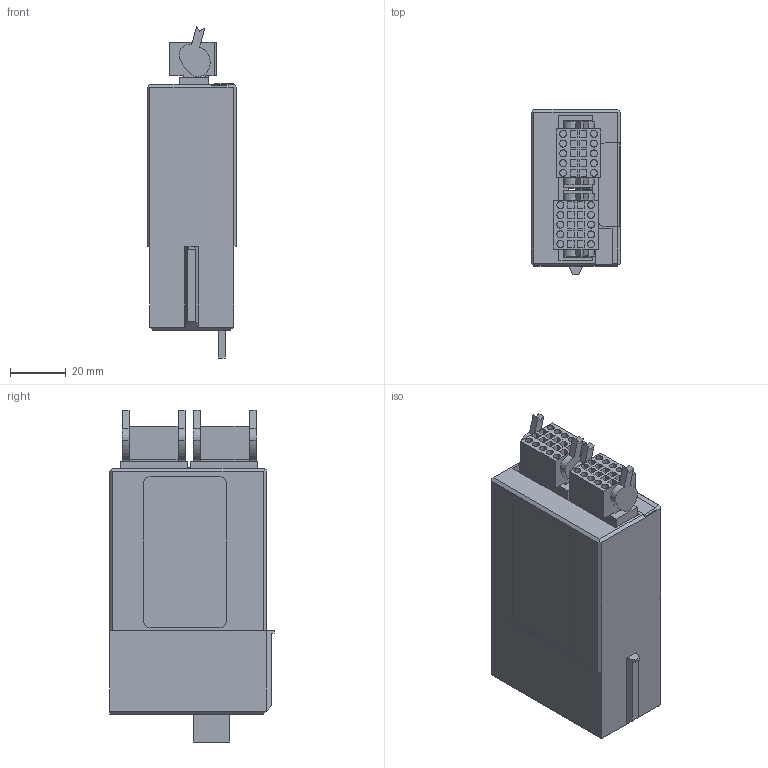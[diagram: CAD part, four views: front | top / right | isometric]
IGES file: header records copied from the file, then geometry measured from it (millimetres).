
Global section: file name: Filename.iges; native system: Open CASCADE 7.3; preprocessor: Open CASCADE IGES processor 7.3; date: 20201219.164916; units: millimetre
Bounding box: 32.2 x 59 x 118.87 mm (x, y, z)
Surface area: 56632.7 mm2 (no closed solid volume)
Topology: 0 solids, 0 shells, 328 faces, 1502 edges, 1462 vertices
Faces by surface type: plane 282, revolution 46
